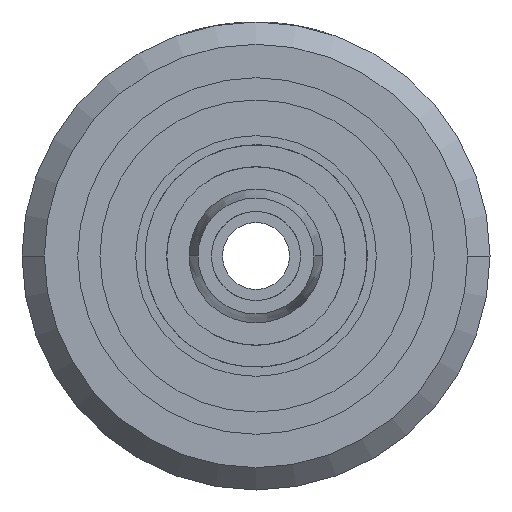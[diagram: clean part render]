
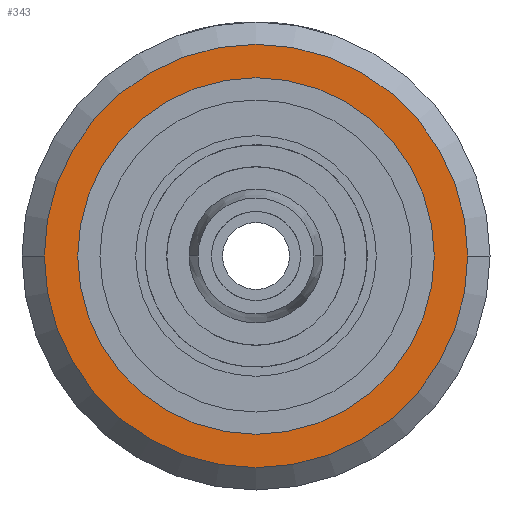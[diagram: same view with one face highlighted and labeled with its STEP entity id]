
A CAD part, front view. The second image highlights one B-rep face of the part: STEP entity #343.
In plain terms, the highlighted planar face has unit normal (0, -1, 0).
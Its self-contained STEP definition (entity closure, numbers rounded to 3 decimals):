
#199=PLANE('',#2507);
#237=FACE_BOUND('',#693,.T.);
#238=FACE_BOUND('',#694,.T.);
#343=ADVANCED_FACE('',(#237,#238),#199,.T.);
#693=EDGE_LOOP('',(#1296,#1297));
#694=EDGE_LOOP('',(#1298,#1299));
#1296=ORIENTED_EDGE('',*,*,#2092,.T.);
#1297=ORIENTED_EDGE('',*,*,#2093,.T.);
#1298=ORIENTED_EDGE('',*,*,#2094,.F.);
#1299=ORIENTED_EDGE('',*,*,#2095,.T.);
#1828=VERTEX_POINT('',#6767);
#1829=VERTEX_POINT('',#6769);
#1830=VERTEX_POINT('',#6774);
#1831=VERTEX_POINT('',#6775);
#2092=EDGE_CURVE('',#1828,#1829,#2336,.T.);
#2093=EDGE_CURVE('',#1829,#1828,#2337,.T.);
#2094=EDGE_CURVE('',#1830,#1831,#2338,.T.);
#2095=EDGE_CURVE('',#1830,#1831,#2339,.T.);
#2336=CIRCLE('',#2502,4.75);
#2337=CIRCLE('',#2504,4.75);
#2338=CIRCLE('',#2505,4.);
#2339=CIRCLE('',#2506,4.);
#2502=AXIS2_PLACEMENT_3D('',#6770,#2867,#2868);
#2504=AXIS2_PLACEMENT_3D('',#6772,#2871,#2872);
#2505=AXIS2_PLACEMENT_3D('',#6773,#2873,#2874);
#2506=AXIS2_PLACEMENT_3D('',#6776,#2875,#2876);
#2507=AXIS2_PLACEMENT_3D('',#6777,#2877,#2878);
#2867=DIRECTION('',(0.,-1.,0.));
#2868=DIRECTION('',(1.,0.,0.));
#2871=DIRECTION('',(0.,-1.,0.));
#2872=DIRECTION('',(-1.,0.,0.));
#2873=DIRECTION('',(0.,-1.,0.));
#2874=DIRECTION('',(-1.,0.,0.));
#2875=DIRECTION('',(0.,1.,0.));
#2876=DIRECTION('',(-1.,0.,0.));
#2877=DIRECTION('',(0.,-1.,0.));
#2878=DIRECTION('',(-1.,0.,0.));
#6767=CARTESIAN_POINT('',(94.416,-83.352,11.278));
#6769=CARTESIAN_POINT('',(84.916,-83.352,11.278));
#6770=CARTESIAN_POINT('',(89.666,-83.352,11.278));
#6772=CARTESIAN_POINT('',(89.666,-83.352,11.278));
#6773=CARTESIAN_POINT('',(89.666,-83.352,11.278));
#6774=CARTESIAN_POINT('',(85.666,-83.352,11.278));
#6775=CARTESIAN_POINT('',(93.666,-83.352,11.278));
#6776=CARTESIAN_POINT('',(89.666,-83.352,11.278));
#6777=CARTESIAN_POINT('',(89.666,-83.352,11.278));
